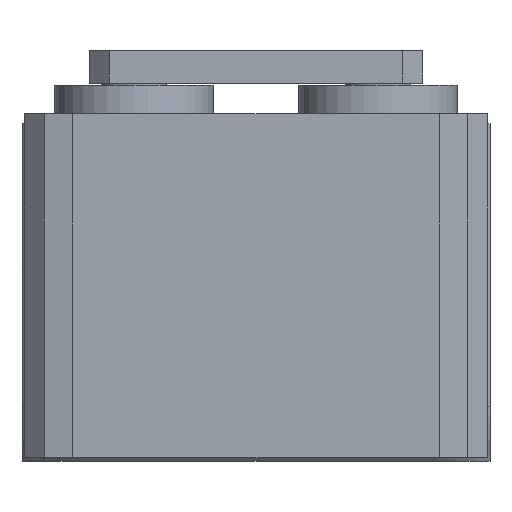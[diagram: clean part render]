
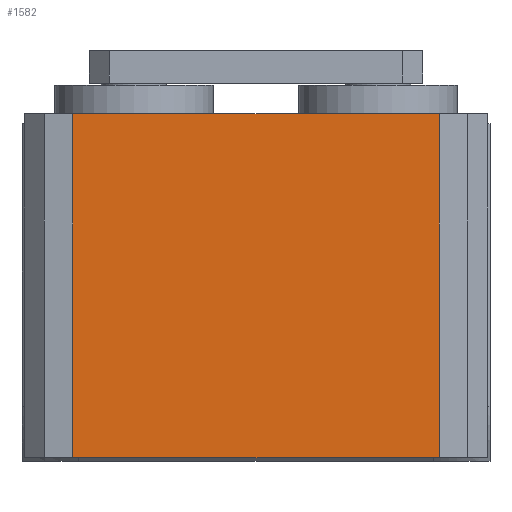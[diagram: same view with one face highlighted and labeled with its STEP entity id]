
A CAD part, top view. The second image highlights one B-rep face of the part: STEP entity #1582.
In plain terms, the highlighted planar face has unit normal (0, 0, 1).
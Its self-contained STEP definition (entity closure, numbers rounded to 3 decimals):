
#68=LINE('',#2323,#224);
#80=LINE('',#2354,#236);
#81=LINE('',#2356,#237);
#82=LINE('',#2357,#238);
#224=VECTOR('',#1890,90.);
#236=VECTOR('',#1916,84.5);
#237=VECTOR('',#1917,90.);
#238=VECTOR('',#1918,84.5);
#362=PLANE('',#1698);
#452=FACE_OUTER_BOUND('',#556,.T.);
#556=EDGE_LOOP('',(#1125,#1126,#1127,#1128));
#720=VERTEX_POINT('',#2320);
#721=VERTEX_POINT('',#2322);
#733=VERTEX_POINT('',#2353);
#734=VERTEX_POINT('',#2355);
#872=EDGE_CURVE('',#721,#720,#68,.T.);
#887=EDGE_CURVE('',#720,#733,#80,.T.);
#888=EDGE_CURVE('',#734,#733,#81,.T.);
#889=EDGE_CURVE('',#734,#721,#82,.T.);
#1125=ORIENTED_EDGE('',*,*,#887,.T.);
#1126=ORIENTED_EDGE('',*,*,#888,.F.);
#1127=ORIENTED_EDGE('',*,*,#889,.T.);
#1128=ORIENTED_EDGE('',*,*,#872,.T.);
#1582=ADVANCED_FACE('',(#452),#362,.F.);
#1698=AXIS2_PLACEMENT_3D('',#2352,#1914,#1915);
#1890=DIRECTION('',(1.,0.,0.));
#1914=DIRECTION('center_axis',(0.,0.,-1.));
#1915=DIRECTION('ref_axis',(1.,0.,0.));
#1916=DIRECTION('',(0.,1.,0.));
#1917=DIRECTION('',(1.,0.,0.));
#1918=DIRECTION('',(0.,-1.,0.));
#2320=CARTESIAN_POINT('',(45.,-82.2,80.));
#2322=CARTESIAN_POINT('',(-45.,-82.2,80.));
#2323=CARTESIAN_POINT('',(-45.,-82.2,80.));
#2352=CARTESIAN_POINT('Origin',(57.,0.3,80.));
#2353=CARTESIAN_POINT('',(45.,2.3,80.));
#2354=CARTESIAN_POINT('',(45.,-82.2,80.));
#2355=CARTESIAN_POINT('',(-45.,2.3,80.));
#2356=CARTESIAN_POINT('',(-45.,2.3,80.));
#2357=CARTESIAN_POINT('',(-45.,2.3,80.));
